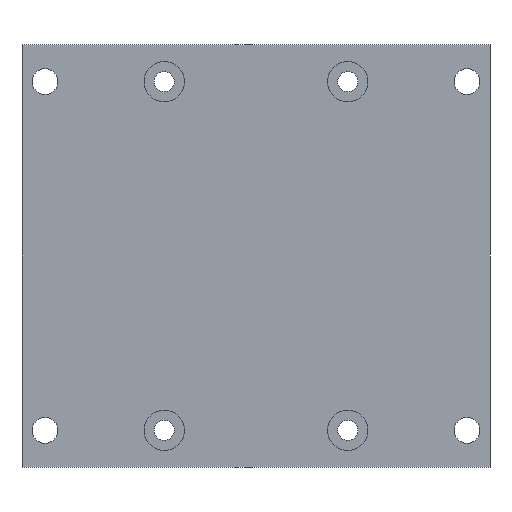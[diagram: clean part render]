
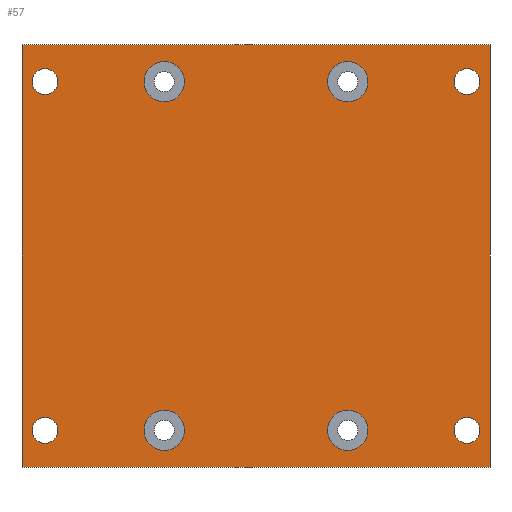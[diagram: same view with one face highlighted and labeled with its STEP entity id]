
A CAD part, front view. The second image highlights one B-rep face of the part: STEP entity #57.
In plain terms, the highlighted planar face has unit normal (0, -1, 0).
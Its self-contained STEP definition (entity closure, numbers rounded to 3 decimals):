
#21 = EDGE_CURVE('',#22,#24,#26,.T.);
#22 = VERTEX_POINT('',#23);
#23 = CARTESIAN_POINT('',(-25.5,-9.2,47.));
#24 = VERTEX_POINT('',#25);
#25 = CARTESIAN_POINT('',(-25.5,-9.2,93.));
#26 = LINE('',#27,#28);
#27 = CARTESIAN_POINT('',(-25.5,-9.2,47.));
#28 = VECTOR('',#29,1.);
#29 = DIRECTION('',(0.,0.,1.));
#57 = ADVANCED_FACE('',(#58,#83,#94,#105,#116,#127,#138,#149,#160),#171,
  .F.);
#58 = FACE_BOUND('',#59,.F.);
#59 = EDGE_LOOP('',(#60,#68,#69,#77));
#60 = ORIENTED_EDGE('',*,*,#61,.F.);
#61 = EDGE_CURVE('',#22,#62,#64,.T.);
#62 = VERTEX_POINT('',#63);
#63 = CARTESIAN_POINT('',(25.5,-9.2,47.));
#64 = LINE('',#65,#66);
#65 = CARTESIAN_POINT('',(-25.5,-9.2,47.));
#66 = VECTOR('',#67,1.);
#67 = DIRECTION('',(1.,0.,0.));
#68 = ORIENTED_EDGE('',*,*,#21,.T.);
#69 = ORIENTED_EDGE('',*,*,#70,.T.);
#70 = EDGE_CURVE('',#24,#71,#73,.T.);
#71 = VERTEX_POINT('',#72);
#72 = CARTESIAN_POINT('',(25.5,-9.2,93.));
#73 = LINE('',#74,#75);
#74 = CARTESIAN_POINT('',(-25.5,-9.2,93.));
#75 = VECTOR('',#76,1.);
#76 = DIRECTION('',(1.,0.,0.));
#77 = ORIENTED_EDGE('',*,*,#78,.F.);
#78 = EDGE_CURVE('',#62,#71,#79,.T.);
#79 = LINE('',#80,#81);
#80 = CARTESIAN_POINT('',(25.5,-9.2,47.));
#81 = VECTOR('',#82,1.);
#82 = DIRECTION('',(0.,0.,1.));
#83 = FACE_BOUND('',#84,.F.);
#84 = EDGE_LOOP('',(#85));
#85 = ORIENTED_EDGE('',*,*,#86,.F.);
#86 = EDGE_CURVE('',#87,#87,#89,.T.);
#87 = VERTEX_POINT('',#88);
#88 = CARTESIAN_POINT('',(-23.,-9.2,52.4));
#89 = CIRCLE('',#90,1.4);
#90 = AXIS2_PLACEMENT_3D('',#91,#92,#93);
#91 = CARTESIAN_POINT('',(-23.,-9.2,51.));
#92 = DIRECTION('',(0.,1.,0.));
#93 = DIRECTION('',(0.,0.,1.));
#94 = FACE_BOUND('',#95,.F.);
#95 = EDGE_LOOP('',(#96));
#96 = ORIENTED_EDGE('',*,*,#97,.F.);
#97 = EDGE_CURVE('',#98,#98,#100,.T.);
#98 = VERTEX_POINT('',#99);
#99 = CARTESIAN_POINT('',(-10.,-9.2,53.2));
#100 = CIRCLE('',#101,2.2);
#101 = AXIS2_PLACEMENT_3D('',#102,#103,#104);
#102 = CARTESIAN_POINT('',(-10.,-9.2,51.));
#103 = DIRECTION('',(0.,1.,0.));
#104 = DIRECTION('',(0.,0.,1.));
#105 = FACE_BOUND('',#106,.F.);
#106 = EDGE_LOOP('',(#107));
#107 = ORIENTED_EDGE('',*,*,#108,.F.);
#108 = EDGE_CURVE('',#109,#109,#111,.T.);
#109 = VERTEX_POINT('',#110);
#110 = CARTESIAN_POINT('',(-23.,-9.2,90.4));
#111 = CIRCLE('',#112,1.4);
#112 = AXIS2_PLACEMENT_3D('',#113,#114,#115);
#113 = CARTESIAN_POINT('',(-23.,-9.2,89.));
#114 = DIRECTION('',(0.,1.,0.));
#115 = DIRECTION('',(0.,0.,1.));
#116 = FACE_BOUND('',#117,.F.);
#117 = EDGE_LOOP('',(#118));
#118 = ORIENTED_EDGE('',*,*,#119,.F.);
#119 = EDGE_CURVE('',#120,#120,#122,.T.);
#120 = VERTEX_POINT('',#121);
#121 = CARTESIAN_POINT('',(-10.,-9.2,91.2));
#122 = CIRCLE('',#123,2.2);
#123 = AXIS2_PLACEMENT_3D('',#124,#125,#126);
#124 = CARTESIAN_POINT('',(-10.,-9.2,89.));
#125 = DIRECTION('',(0.,1.,0.));
#126 = DIRECTION('',(0.,0.,1.));
#127 = FACE_BOUND('',#128,.F.);
#128 = EDGE_LOOP('',(#129));
#129 = ORIENTED_EDGE('',*,*,#130,.F.);
#130 = EDGE_CURVE('',#131,#131,#133,.T.);
#131 = VERTEX_POINT('',#132);
#132 = CARTESIAN_POINT('',(10.,-9.2,53.2));
#133 = CIRCLE('',#134,2.2);
#134 = AXIS2_PLACEMENT_3D('',#135,#136,#137);
#135 = CARTESIAN_POINT('',(10.,-9.2,51.));
#136 = DIRECTION('',(0.,1.,0.));
#137 = DIRECTION('',(0.,0.,1.));
#138 = FACE_BOUND('',#139,.F.);
#139 = EDGE_LOOP('',(#140));
#140 = ORIENTED_EDGE('',*,*,#141,.F.);
#141 = EDGE_CURVE('',#142,#142,#144,.T.);
#142 = VERTEX_POINT('',#143);
#143 = CARTESIAN_POINT('',(23.,-9.2,52.4));
#144 = CIRCLE('',#145,1.4);
#145 = AXIS2_PLACEMENT_3D('',#146,#147,#148);
#146 = CARTESIAN_POINT('',(23.,-9.2,51.));
#147 = DIRECTION('',(0.,1.,0.));
#148 = DIRECTION('',(0.,0.,1.));
#149 = FACE_BOUND('',#150,.F.);
#150 = EDGE_LOOP('',(#151));
#151 = ORIENTED_EDGE('',*,*,#152,.F.);
#152 = EDGE_CURVE('',#153,#153,#155,.T.);
#153 = VERTEX_POINT('',#154);
#154 = CARTESIAN_POINT('',(10.,-9.2,91.2));
#155 = CIRCLE('',#156,2.2);
#156 = AXIS2_PLACEMENT_3D('',#157,#158,#159);
#157 = CARTESIAN_POINT('',(10.,-9.2,89.));
#158 = DIRECTION('',(0.,1.,0.));
#159 = DIRECTION('',(0.,0.,1.));
#160 = FACE_BOUND('',#161,.F.);
#161 = EDGE_LOOP('',(#162));
#162 = ORIENTED_EDGE('',*,*,#163,.F.);
#163 = EDGE_CURVE('',#164,#164,#166,.T.);
#164 = VERTEX_POINT('',#165);
#165 = CARTESIAN_POINT('',(23.,-9.2,90.4));
#166 = CIRCLE('',#167,1.4);
#167 = AXIS2_PLACEMENT_3D('',#168,#169,#170);
#168 = CARTESIAN_POINT('',(23.,-9.2,89.));
#169 = DIRECTION('',(0.,1.,0.));
#170 = DIRECTION('',(0.,0.,1.));
#171 = PLANE('',#172);
#172 = AXIS2_PLACEMENT_3D('',#173,#174,#175);
#173 = CARTESIAN_POINT('',(-25.5,-9.2,47.));
#174 = DIRECTION('',(0.,1.,0.));
#175 = DIRECTION('',(0.,0.,1.));
